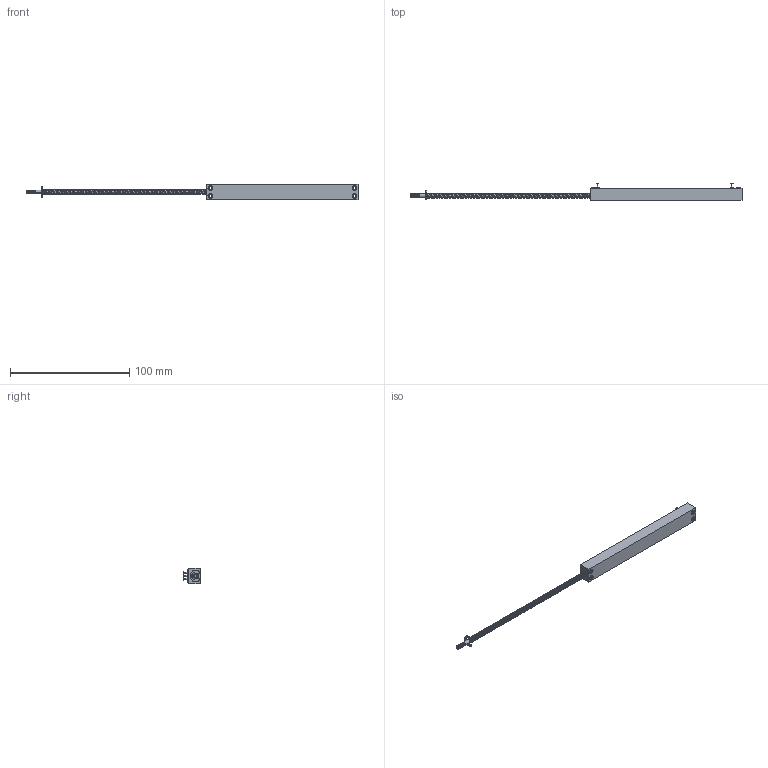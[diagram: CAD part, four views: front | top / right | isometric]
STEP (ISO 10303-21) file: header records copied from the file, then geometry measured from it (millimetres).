
FILE_DESCRIPTION (( 'STEP AP214' ), '1' );
FILE_NAME ('CLPR13_100.STEP', '2016-11-28T10:46:22', ( '' ), ( '' ), 'SwSTEP 2.0', 'SolidWorks 2016', '' );
FILE_SCHEMA (( 'AUTOMOTIVE_DESIGN' ));
Length unit declared in the file: millimetre
Products named in the file (8): Feder_CLPR13-100; Taster_CLPR100_M2; Lager_CLP13; Lötstifte_hoch_CLP13; Hohlniet_CLP13; Gehäuse_CLPR13-100; CLPR13_100; lock washer for shafts_din_Lock washer DIN 6799 - 4
Assembly tree (12 placements, depth 2):
  CLPR13_100
    Gehäuse_CLPR13-100
    Hohlniet_CLP13  x4
    Lötstifte_hoch_CLP13  x3
    Lager_CLP13
    Taster_CLPR100_M2
    Feder_CLPR13-100
    lock washer for shafts_din_Lock washer DIN 6799 - 4
Bounding box: 278.6 x 15 x 13 mm (x, y, z)
Volume: 17037.1 mm3; surface area: 10948.9 mm2
Topology: 12 solids, 12 shells, 490 faces, 1213 edges, 799 vertices
Faces by surface type: plane 226, cylinder 114, bspline 107, cone 43
Entity records: 69978 total; most frequent: CARTESIAN_POINT 57241, ORIENTED_EDGE 2146, DIRECTION 1577, EDGE_CURVE 1073, VERTEX_POINT 711, LINE 651, VECTOR 651, EDGE_LOOP 472
